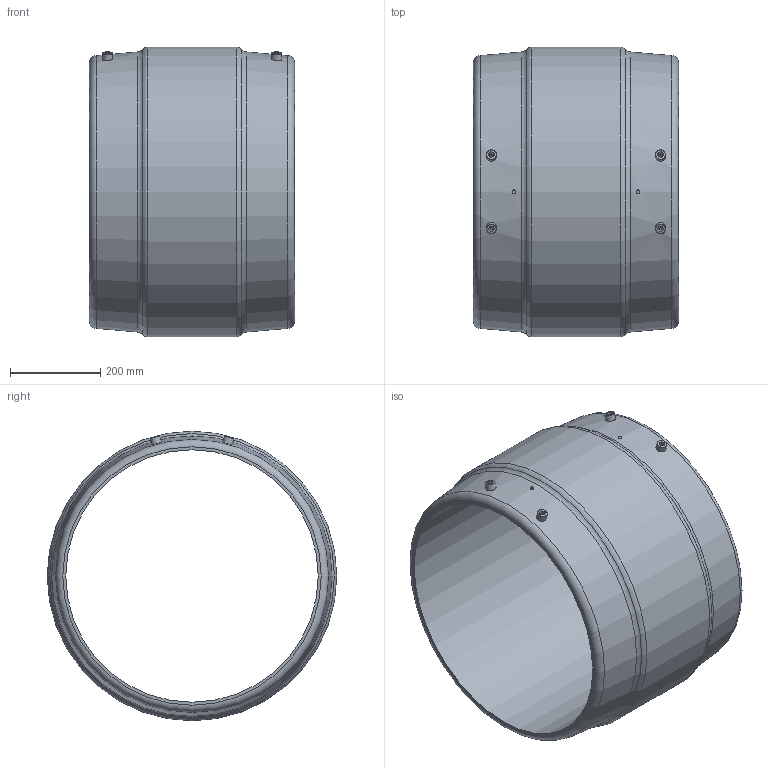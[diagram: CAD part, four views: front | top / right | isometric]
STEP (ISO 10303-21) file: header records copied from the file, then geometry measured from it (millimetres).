
FILE_DESCRIPTION(/* description */ ('Unknown'),/* implementation_level */ '2;1');
FILE_NAME(/* name */ 'MP560B',/* time_stamp */ '2021-12-09T15:17:30+01:00',/* author */ ('Unknown'),/* organization */ ('Unknown'),/* preprocessor_version */ 'ST-DEVELOPER v16.7',/* originating_system */ 'Solid Edge',/* authorisation */ 'Unknown');
FILE_SCHEMA (('AUTOMOTIVE_DESIGN {1 0 10303 214 3 1 1}'));
Length unit declared in the file: millimetre
Products named in the file (1): MP560B
Bounding box: 455 x 642 x 642 mm (x, y, z)
Volume: 28276970.9 mm3; surface area: 1772823.8 mm2
Topology: 1 solids, 1 shells, 44 faces, 86 edges, 56 vertices
Faces by surface type: plane 16, cylinder 12, torus 10, cone 6
Full cylindrical faces by diameter (mm): 4 x4, 8 x2, 12 x4, 560 x1, 642 x1
Entity records: 992 total; most frequent: CARTESIAN_POINT 225, DIRECTION 166, ORIENTED_EDGE 88, EDGE_LOOP 88, FACE_BOUND 88, AXIS2_PLACEMENT_3D 83, EDGE_CURVE 44, VERTEX_POINT 44
